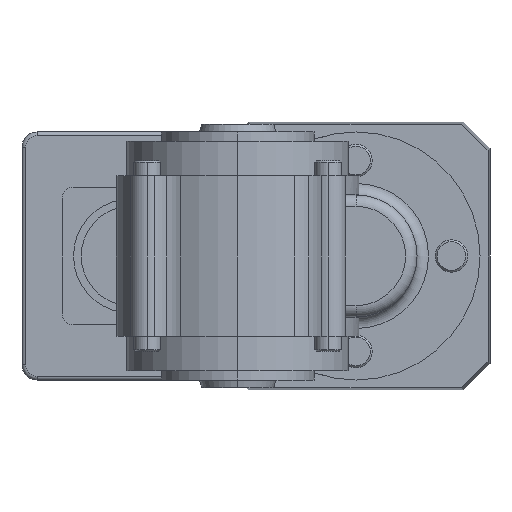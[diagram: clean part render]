
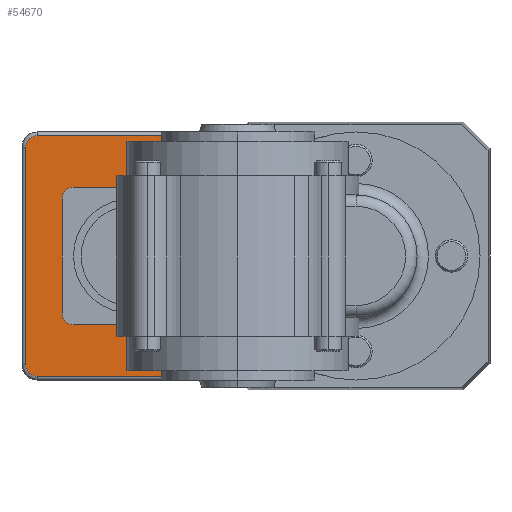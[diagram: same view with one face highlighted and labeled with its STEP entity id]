
A CAD part, left-side view. The second image highlights one B-rep face of the part: STEP entity #54670.
In plain terms, the highlighted planar face has unit normal (-1, 0, 0) as drawn and (0, 0, 1) by its records, which use the part's own axes.
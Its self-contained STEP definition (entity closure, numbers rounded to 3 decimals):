
#44040=CARTESIAN_POINT('',(-115.458,-305.92,-15.5));
#44050=DIRECTION('',(0.,-1.,0.));
#44060=VECTOR('',#44050,1.);
#44070=LINE('',#44040,#44060);
#44080=CARTESIAN_POINT('',(-115.458,-220.477,-15.5));
#44090=VERTEX_POINT('',#44080);
#44100=CARTESIAN_POINT('',(-115.458,-250.477,-15.5));
#44110=VERTEX_POINT('',#44100);
#44120=EDGE_CURVE('',#44090,#44110,#44070,.T.);
#45630=CARTESIAN_POINT('',(-101.958,-210.977,-15.5));
#45640=VERTEX_POINT('',#45630);
#45810=CARTESIAN_POINT('',(-101.958,-264.268,-15.5));
#45820=VERTEX_POINT('',#45810);
#45850=CARTESIAN_POINT('',(-101.958,-305.92,-15.5));
#45860=DIRECTION('',(0.,1.,0.));
#45870=VECTOR('',#45860,1.);
#45880=LINE('',#45850,#45870);
#45890=EDGE_CURVE('',#45820,#45640,#45880,.T.);
#46040=CARTESIAN_POINT('',(-118.458,-217.477,-15.5));
#46050=VERTEX_POINT('',#46040);
#46080=CARTESIAN_POINT('',(-118.458,-220.477,-15.5));
#46090=DIRECTION('',(0.,0.,1.));
#46100=DIRECTION('',(1.,0.,0.));
#46110=AXIS2_PLACEMENT_3D('',#46080,#46090,#46100);
#46120=CIRCLE('',#46110,3.);
#46130=EDGE_CURVE('',#44090,#46050,#46120,.T.);
#46260=CARTESIAN_POINT('',(-118.458,-250.477,-15.5));
#46270=DIRECTION('',(0.,0.,1.));
#46280=DIRECTION('',(1.,0.,0.));
#46290=AXIS2_PLACEMENT_3D('',#46260,#46270,#46280);
#46300=CIRCLE('',#46290,3.);
#46310=CARTESIAN_POINT('',(-118.458,-253.477,-15.5));
#46320=VERTEX_POINT('',#46310);
#46330=EDGE_CURVE('',#46320,#44110,#46300,.T.);
#46550=CARTESIAN_POINT('',(-148.458,-217.477,-15.5));
#46560=VERTEX_POINT('',#46550);
#46590=CARTESIAN_POINT('',(-121.85,-217.477,-15.5));
#46600=DIRECTION('',(1.,0.,0.));
#46610=VECTOR('',#46600,1.);
#46620=LINE('',#46590,#46610);
#46630=EDGE_CURVE('',#46560,#46050,#46620,.T.);
#47060=CARTESIAN_POINT('',(-121.85,-253.477,-15.5));
#47070=DIRECTION('',(-1.,0.,0.));
#47080=VECTOR('',#47070,1.);
#47090=LINE('',#47060,#47080);
#47100=CARTESIAN_POINT('',(-148.458,-253.477,-15.5));
#47110=VERTEX_POINT('',#47100);
#47120=EDGE_CURVE('',#46320,#47110,#47090,.T.);
#48310=CARTESIAN_POINT('',(-104.958,-210.977,-15.5));
#48320=DIRECTION('',(0.,0.,-1.));
#48330=DIRECTION('',(-1.,0.,0.));
#48340=AXIS2_PLACEMENT_3D('',#48310,#48320,#48330);
#48350=CIRCLE('',#48340,3.);
#48360=CARTESIAN_POINT('',(-104.958,-207.977,-15.5));
#48370=VERTEX_POINT('',#48360);
#48380=EDGE_CURVE('',#48370,#45640,#48350,.T.);
#48960=CARTESIAN_POINT('',(-161.958,-207.977,-15.5));
#48970=VERTEX_POINT('',#48960);
#49020=CARTESIAN_POINT('',(-121.85,-207.977,-15.5));
#49030=DIRECTION('',(-1.,0.,0.));
#49040=VECTOR('',#49030,1.);
#49050=LINE('',#49020,#49040);
#49060=EDGE_CURVE('',#48370,#48970,#49050,.T.);
#49280=CARTESIAN_POINT('',(-164.958,-210.977,-15.5));
#49290=VERTEX_POINT('',#49280);
#49320=CARTESIAN_POINT('',(-164.958,-305.92,-15.5));
#49330=DIRECTION('',(0.,-1.,0.));
#49340=VECTOR('',#49330,1.);
#49350=LINE('',#49320,#49340);
#49360=CARTESIAN_POINT('',(-164.958,-264.268,-15.5));
#49370=VERTEX_POINT('',#49360);
#49380=EDGE_CURVE('',#49290,#49370,#49350,.T.);
#49550=CARTESIAN_POINT('',(-161.958,-210.977,-15.5));
#49560=DIRECTION('',(0.,0.,-1.));
#49570=DIRECTION('',(-1.,0.,0.));
#49580=AXIS2_PLACEMENT_3D('',#49550,#49560,#49570);
#49590=CIRCLE('',#49580,3.);
#49600=EDGE_CURVE('',#49290,#48970,#49590,.T.);
#49720=CARTESIAN_POINT('',(-148.458,-220.477,-15.5));
#49730=DIRECTION('',(0.,0.,1.));
#49740=DIRECTION('',(1.,0.,0.));
#49750=AXIS2_PLACEMENT_3D('',#49720,#49730,#49740);
#49760=CIRCLE('',#49750,3.);
#49770=CARTESIAN_POINT('',(-151.458,-220.477,-15.5));
#49780=VERTEX_POINT('',#49770);
#49790=EDGE_CURVE('',#46560,#49780,#49760,.T.);
#52560=CARTESIAN_POINT('',(-105.958,-260.268,-15.5));
#52570=VERTEX_POINT('',#52560);
#52650=CARTESIAN_POINT('',(-160.958,-260.268,-15.5));
#52660=VERTEX_POINT('',#52650);
#52690=CARTESIAN_POINT('',(-132.613,-260.268,-15.5));
#52700=DIRECTION('',(-1.,0.,0.));
#52710=VECTOR('',#52700,1.);
#52720=LINE('',#52690,#52710);
#52730=EDGE_CURVE('',#52570,#52660,#52720,.T.);
#53200=CARTESIAN_POINT('',(-81.728,-284.497,-15.5));
#53210=DIRECTION('',(-0.707,0.707,0.));
#53220=VECTOR('',#53210,1.);
#53230=LINE('',#53200,#53220);
#53240=EDGE_CURVE('',#45820,#52570,#53230,.T.);
#53420=CARTESIAN_POINT('',(-185.187,-284.497,-15.5));
#53430=DIRECTION('',(-0.707,-0.707,0.));
#53440=VECTOR('',#53430,1.);
#53450=LINE('',#53420,#53440);
#53460=EDGE_CURVE('',#52660,#49370,#53450,.T.);
#54290=CARTESIAN_POINT('',(-106.641,-253.158,-15.5));
#54300=DIRECTION('',(0.,0.,1.));
#54310=DIRECTION('',(0.,-1.,0.));
#54320=AXIS2_PLACEMENT_3D('',#54290,#54300,#54310);
#54330=PLANE('',#54320);
#54340=ORIENTED_EDGE('',*,*,#53460,.F.);
#54350=ORIENTED_EDGE('',*,*,#49380,.T.);
#54360=ORIENTED_EDGE('',*,*,#49600,.F.);
#54370=ORIENTED_EDGE('',*,*,#49060,.T.);
#54380=ORIENTED_EDGE('',*,*,#48380,.F.);
#54390=ORIENTED_EDGE('',*,*,#45890,.T.);
#54400=ORIENTED_EDGE('',*,*,#53240,.F.);
#54410=ORIENTED_EDGE('',*,*,#52730,.F.);
#54420=EDGE_LOOP('',(#54410,#54400,#54390,#54380,#54370,#54360,#54350,
#54340));
#54430=FACE_OUTER_BOUND('',#54420,.T.);
#54440=CARTESIAN_POINT('',(-148.458,-250.477,-15.5));
#54450=DIRECTION('',(0.,0.,1.));
#54460=DIRECTION('',(1.,0.,0.));
#54470=AXIS2_PLACEMENT_3D('',#54440,#54450,#54460);
#54480=CIRCLE('',#54470,3.);
#54490=CARTESIAN_POINT('',(-151.458,-250.477,-15.5));
#54500=VERTEX_POINT('',#54490);
#54510=EDGE_CURVE('',#54500,#47110,#54480,.T.);
#54520=ORIENTED_EDGE('',*,*,#54510,.F.);
#54530=ORIENTED_EDGE('',*,*,#47120,.T.);
#54540=ORIENTED_EDGE('',*,*,#46330,.F.);
#54550=ORIENTED_EDGE('',*,*,#44120,.T.);
#54560=ORIENTED_EDGE('',*,*,#46130,.F.);
#54570=ORIENTED_EDGE('',*,*,#46630,.T.);
#54580=ORIENTED_EDGE('',*,*,#49790,.F.);
#54590=CARTESIAN_POINT('',(-151.458,-305.92,-15.5));
#54600=DIRECTION('',(0.,1.,0.));
#54610=VECTOR('',#54600,1.);
#54620=LINE('',#54590,#54610);
#54630=EDGE_CURVE('',#54500,#49780,#54620,.T.);
#54640=ORIENTED_EDGE('',*,*,#54630,.T.);
#54650=EDGE_LOOP('',(#54640,#54580,#54570,#54560,#54550,#54540,#54530,
#54520));
#54660=FACE_BOUND('',#54650,.T.);
#54670=ADVANCED_FACE('',(#54430,#54660),#54330,.T.);
